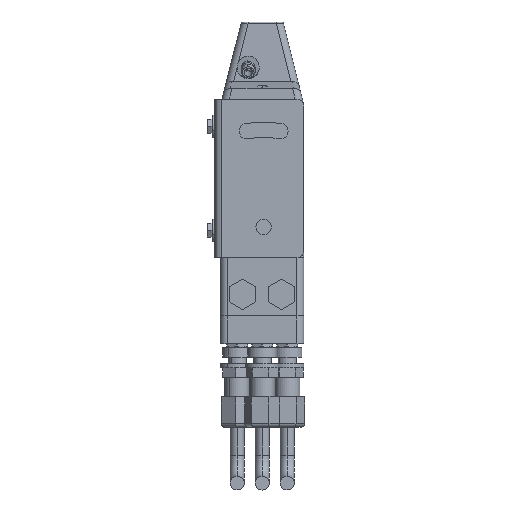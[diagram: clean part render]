
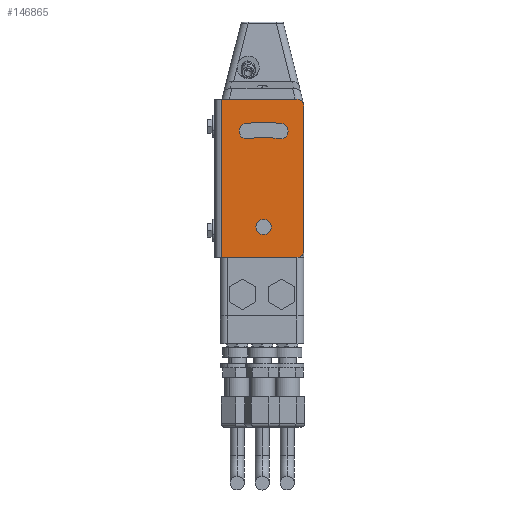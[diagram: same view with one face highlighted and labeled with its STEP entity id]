
A CAD part, front view. The second image highlights one B-rep face of the part: STEP entity #146865.
In plain terms, the highlighted planar face has unit normal (0, -1, 0).
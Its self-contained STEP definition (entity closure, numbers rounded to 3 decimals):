
#791 = CARTESIAN_POINT ( 'NONE',  ( 14.481, -93.355, 125.437 ) ) ;
#1848 = DIRECTION ( 'NONE',  ( 0., -1., 0. ) ) ;
#2203 = VECTOR ( 'NONE', #124763, 1000. ) ;
#4073 = CARTESIAN_POINT ( 'NONE',  ( -27.674, -93.355, 40. ) ) ;
#4344 = CARTESIAN_POINT ( 'NONE',  ( -9.829, -93.355, 130.937 ) ) ;
#4553 = ORIENTED_EDGE ( 'NONE', *, *, #40408, .F. ) ;
#5828 = LINE ( 'NONE', #66902, #2203 ) ;
#7336 = AXIS2_PLACEMENT_3D ( 'NONE', #113726, #44159, #125313 ) ;
#10140 = EDGE_CURVE ( 'NONE', #112436, #105612, #149180, .T. ) ;
#10769 = CIRCLE ( 'NONE', #26869, 5.5 ) ;
#11732 = CARTESIAN_POINT ( 'NONE',  ( 31.326, -93.355, 45. ) ) ;
#12182 = EDGE_CURVE ( 'NONE', #150140, #63700, #33449, .T. ) ;
#13027 = AXIS2_PLACEMENT_3D ( 'NONE', #53476, #53291, #53118 ) ;
#13528 = EDGE_CURVE ( 'NONE', #81082, #100667, #67055, .T. ) ;
#15174 = VECTOR ( 'NONE', #113115, 1000. ) ;
#15936 = DIRECTION ( 'NONE',  ( -1., 0., 0. ) ) ;
#16269 = CARTESIAN_POINT ( 'NONE',  ( 26.326, -93.355, 154. ) ) ;
#17209 = CARTESIAN_POINT ( 'NONE',  ( 26.326, -93.355, 149. ) ) ;
#18524 = CARTESIAN_POINT ( 'NONE',  ( -10.784, -93.355, 136.353 ) ) ;
#18876 = EDGE_LOOP ( 'NONE', ( #128936, #44760, #59895, #133352, #70503, #22224 ) ) ;
#21311 = DIRECTION ( 'NONE',  ( 0., -1., 0. ) ) ;
#22224 = ORIENTED_EDGE ( 'NONE', *, *, #88162, .T. ) ;
#26378 = VERTEX_POINT ( 'NONE', #4073 ) ;
#26522 = CARTESIAN_POINT ( 'NONE',  ( 13.526, -93.355, 125.52 ) ) ;
#26869 = AXIS2_PLACEMENT_3D ( 'NONE', #110630, #41089, #122239 ) ;
#28055 = CARTESIAN_POINT ( 'NONE',  ( 2.326, -93.355, 62. ) ) ;
#28859 = DIRECTION ( 'NONE',  ( -1., 0., 0. ) ) ;
#30963 = LINE ( 'NONE', #137253, #88984 ) ;
#31451 = EDGE_CURVE ( 'NONE', #81082, #26378, #65084, .T. ) ;
#32329 = EDGE_CURVE ( 'NONE', #132574, #92469, #42683, .T. ) ;
#32576 = AXIS2_PLACEMENT_3D ( 'NONE', #96956, #120513, #119972 ) ;
#33449 = CIRCLE ( 'NONE', #88532, 5.5 ) ;
#37401 = DIRECTION ( 'NONE',  ( 0., -1., 0. ) ) ;
#39598 = CIRCLE ( 'NONE', #88840, 5.5 ) ;
#40144 = EDGE_LOOP ( 'NONE', ( #4553, #76727 ) ) ;
#40408 = EDGE_CURVE ( 'NONE', #63700, #150140, #141479, .T. ) ;
#41089 = DIRECTION ( 'NONE',  ( 0., -1., 0. ) ) ;
#42124 = AXIS2_PLACEMENT_3D ( 'NONE', #106958, #37401, #118629 ) ;
#42305 = EDGE_CURVE ( 'NONE', #105612, #43873, #143057, .T. ) ;
#42667 = ORIENTED_EDGE ( 'NONE', *, *, #82669, .F. ) ;
#42683 = CIRCLE ( 'NONE', #42124, 75.5 ) ;
#43873 = VERTEX_POINT ( 'NONE', #791 ) ;
#44159 = DIRECTION ( 'NONE',  ( 0., -1., 0. ) ) ;
#44174 = ORIENTED_EDGE ( 'NONE', *, *, #10140, .F. ) ;
#44760 = ORIENTED_EDGE ( 'NONE', *, *, #13528, .T. ) ;
#53118 = DIRECTION ( 'NONE',  ( -1., 0., 0. ) ) ;
#53291 = DIRECTION ( 'NONE',  ( 0., -1., 0. ) ) ;
#53476 = CARTESIAN_POINT ( 'NONE',  ( 26.326, -93.355, 45. ) ) ;
#55948 = VERTEX_POINT ( 'NONE', #73759 ) ;
#57012 = DIRECTION ( 'NONE',  ( 0., -1., 0. ) ) ;
#58319 = DIRECTION ( 'NONE',  ( -1., 0., 0. ) ) ;
#59213 = DIRECTION ( 'NONE',  ( 0., -1., 0. ) ) ;
#59481 = EDGE_CURVE ( 'NONE', #113707, #112436, #39598, .T. ) ;
#59895 = ORIENTED_EDGE ( 'NONE', *, *, #74634, .F. ) ;
#61343 = CARTESIAN_POINT ( 'NONE',  ( -8.874, -93.355, 125.52 ) ) ;
#63700 = VERTEX_POINT ( 'NONE', #125765 ) ;
#65084 = LINE ( 'NONE', #104515, #92320 ) ;
#65775 = EDGE_CURVE ( 'NONE', #85208, #94538, #97987, .T. ) ;
#66902 = CARTESIAN_POINT ( 'NONE',  ( 31.326, -93.355, 162. ) ) ;
#67055 = CIRCLE ( 'NONE', #13027, 5. ) ;
#70503 = ORIENTED_EDGE ( 'NONE', *, *, #150200, .F. ) ;
#71304 = CARTESIAN_POINT ( 'NONE',  ( 14.481, -93.355, 130.937 ) ) ;
#73411 = FACE_BOUND ( 'NONE', #40144, .T. ) ;
#73759 = CARTESIAN_POINT ( 'NONE',  ( -27.674, -93.355, 154. ) ) ;
#74634 = EDGE_CURVE ( 'NONE', #85208, #100667, #5828, .T. ) ;
#76727 = ORIENTED_EDGE ( 'NONE', *, *, #12182, .F. ) ;
#81082 = VERTEX_POINT ( 'NONE', #120911 ) ;
#81578 = CARTESIAN_POINT ( 'NONE',  ( -9.829, -93.355, 125.437 ) ) ;
#82669 = EDGE_CURVE ( 'NONE', #92469, #113707, #90835, .T. ) ;
#82990 = DIRECTION ( 'NONE',  ( -1., 0., 0. ) ) ;
#84624 = AXIS2_PLACEMENT_3D ( 'NONE', #126512, #57012, #138234 ) ;
#85208 = VERTEX_POINT ( 'NONE', #113900 ) ;
#85419 = DIRECTION ( 'NONE',  ( 0., -1., 0. ) ) ;
#88162 = EDGE_CURVE ( 'NONE', #55948, #26378, #30963, .T. ) ;
#88532 = AXIS2_PLACEMENT_3D ( 'NONE', #28055, #59213, #147562 ) ;
#88840 = AXIS2_PLACEMENT_3D ( 'NONE', #90782, #21311, #102474 ) ;
#88984 = VECTOR ( 'NONE', #148959, 1000. ) ;
#90782 = CARTESIAN_POINT ( 'NONE',  ( -9.829, -93.355, 130.937 ) ) ;
#90835 = CIRCLE ( 'NONE', #128465, 5.5 ) ;
#92320 = VECTOR ( 'NONE', #58319, 1000. ) ;
#92469 = VERTEX_POINT ( 'NONE', #18524 ) ;
#94538 = VERTEX_POINT ( 'NONE', #16269 ) ;
#96601 = AXIS2_PLACEMENT_3D ( 'NONE', #71304, #1848, #82990 ) ;
#96956 = CARTESIAN_POINT ( 'NONE',  ( 2.326, -93.355, 62. ) ) ;
#97987 = CIRCLE ( 'NONE', #140726, 5. ) ;
#98295 = DIRECTION ( 'NONE',  ( 0., -1., 0. ) ) ;
#100667 = VERTEX_POINT ( 'NONE', #11732 ) ;
#102373 = CARTESIAN_POINT ( 'NONE',  ( -32.674, -93.355, 154. ) ) ;
#102474 = DIRECTION ( 'NONE',  ( -1., 0., 0. ) ) ;
#104515 = CARTESIAN_POINT ( 'NONE',  ( -32.674, -93.355, 40. ) ) ;
#105612 = VERTEX_POINT ( 'NONE', #26522 ) ;
#106958 = CARTESIAN_POINT ( 'NONE',  ( 2.326, -93.355, 62. ) ) ;
#107732 = LINE ( 'NONE', #102373, #15174 ) ;
#107770 = ORIENTED_EDGE ( 'NONE', *, *, #32329, .F. ) ;
#110630 = CARTESIAN_POINT ( 'NONE',  ( 14.481, -93.355, 130.937 ) ) ;
#111034 = EDGE_LOOP ( 'NONE', ( #134894, #44174, #135372, #42667, #107770, #131142 ) ) ;
#111854 = CARTESIAN_POINT ( 'NONE',  ( 15.436, -93.355, 136.353 ) ) ;
#112436 = VERTEX_POINT ( 'NONE', #61343 ) ;
#113115 = DIRECTION ( 'NONE',  ( 1., 0., 0. ) ) ;
#113707 = VERTEX_POINT ( 'NONE', #81578 ) ;
#113726 = CARTESIAN_POINT ( 'NONE',  ( -32.674, -93.355, 162. ) ) ;
#113900 = CARTESIAN_POINT ( 'NONE',  ( 31.326, -93.355, 149. ) ) ;
#118629 = DIRECTION ( 'NONE',  ( -1., 0., 0. ) ) ;
#119972 = DIRECTION ( 'NONE',  ( -1., 0., 0. ) ) ;
#120513 = DIRECTION ( 'NONE',  ( 0., 1., 0. ) ) ;
#120911 = CARTESIAN_POINT ( 'NONE',  ( 26.326, -93.355, 40. ) ) ;
#122239 = DIRECTION ( 'NONE',  ( -1., 0., 0. ) ) ;
#124763 = DIRECTION ( 'NONE',  ( 0., 0., -1. ) ) ;
#125313 = DIRECTION ( 'NONE',  ( -1., 0., 0. ) ) ;
#125765 = CARTESIAN_POINT ( 'NONE',  ( 2.326, -93.355, 56.5 ) ) ;
#126512 = CARTESIAN_POINT ( 'NONE',  ( 2.326, -93.355, 62. ) ) ;
#128465 = AXIS2_PLACEMENT_3D ( 'NONE', #4344, #85419, #15936 ) ;
#128936 = ORIENTED_EDGE ( 'NONE', *, *, #31451, .F. ) ;
#131142 = ORIENTED_EDGE ( 'NONE', *, *, #134847, .F. ) ;
#131491 = FACE_OUTER_BOUND ( 'NONE', #18876, .T. ) ;
#132574 = VERTEX_POINT ( 'NONE', #111854 ) ;
#133352 = ORIENTED_EDGE ( 'NONE', *, *, #65775, .T. ) ;
#134847 = EDGE_CURVE ( 'NONE', #43873, #132574, #10769, .T. ) ;
#134894 = ORIENTED_EDGE ( 'NONE', *, *, #42305, .F. ) ;
#134903 = CARTESIAN_POINT ( 'NONE',  ( 2.326, -93.355, 67.5 ) ) ;
#135153 = FACE_BOUND ( 'NONE', #111034, .T. ) ;
#135372 = ORIENTED_EDGE ( 'NONE', *, *, #59481, .F. ) ;
#136541 = PLANE ( 'NONE',  #7336 ) ;
#137253 = CARTESIAN_POINT ( 'NONE',  ( -27.674, -93.355, 162. ) ) ;
#138234 = DIRECTION ( 'NONE',  ( -1., 0., 0. ) ) ;
#140726 = AXIS2_PLACEMENT_3D ( 'NONE', #17209, #98295, #28859 ) ;
#141479 = CIRCLE ( 'NONE', #84624, 5.5 ) ;
#143057 = CIRCLE ( 'NONE', #96601, 5.5 ) ;
#146865 = ADVANCED_FACE ( 'NONE', ( #131491, #135153, #73411 ), #136541, .T. ) ;
#147562 = DIRECTION ( 'NONE',  ( -1., 0., 0. ) ) ;
#148959 = DIRECTION ( 'NONE',  ( 0., 0., -1. ) ) ;
#149180 = CIRCLE ( 'NONE', #32576, 64.5 ) ;
#150140 = VERTEX_POINT ( 'NONE', #134903 ) ;
#150200 = EDGE_CURVE ( 'NONE', #55948, #94538, #107732, .T. ) ;
